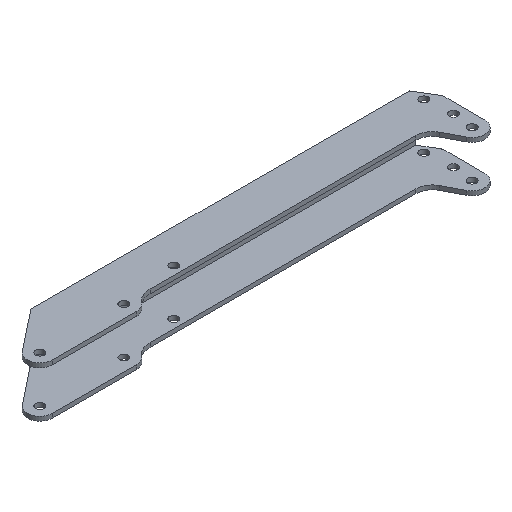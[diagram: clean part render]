
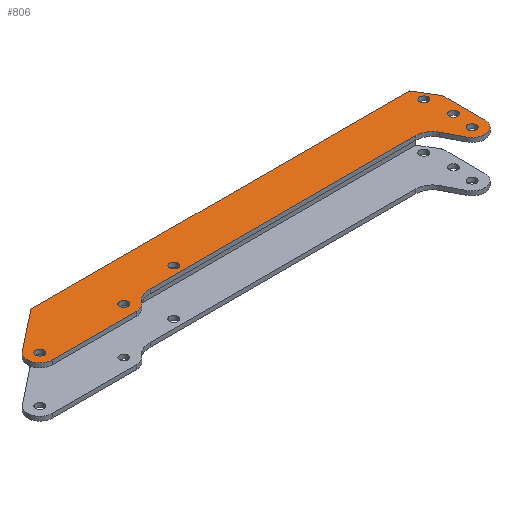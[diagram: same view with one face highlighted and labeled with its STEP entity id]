
A CAD part, isometric view. The second image highlights one B-rep face of the part: STEP entity #806.
In plain terms, the highlighted planar face has unit normal (0, 0, 1).
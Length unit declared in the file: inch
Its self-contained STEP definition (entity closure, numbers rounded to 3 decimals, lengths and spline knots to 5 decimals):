
#17=FACE_BOUND('',#177,.T.);
#18=FACE_BOUND('',#178,.T.);
#19=FACE_BOUND('',#179,.T.);
#20=FACE_BOUND('',#180,.T.);
#21=FACE_BOUND('',#181,.T.);
#22=FACE_BOUND('',#182,.T.);
#42=CIRCLE('',#848,3.);
#44=CIRCLE('',#853,3.);
#45=CIRCLE('',#856,1.);
#47=CIRCLE('',#859,1.);
#49=CIRCLE('',#862,1.);
#64=CIRCLE('',#891,3.);
#65=CIRCLE('',#893,1.);
#66=CIRCLE('',#894,5.);
#67=CIRCLE('',#895,4.);
#68=CIRCLE('',#896,1.);
#69=CIRCLE('',#897,1.);
#70=CIRCLE('',#898,1.);
#136=FACE_OUTER_BOUND('',#176,.T.);
#176=EDGE_LOOP('',(#639,#640,#641,#642,#643,#644,#645,#646,#647,#648,#649,
#650,#651));
#177=EDGE_LOOP('',(#652));
#178=EDGE_LOOP('',(#653));
#179=EDGE_LOOP('',(#654));
#180=EDGE_LOOP('',(#655));
#181=EDGE_LOOP('',(#656));
#182=EDGE_LOOP('',(#657));
#220=LINE('',#1189,#286);
#224=LINE('',#1203,#290);
#226=LINE('',#1208,#292);
#233=LINE('',#1225,#299);
#259=LINE('',#1306,#325);
#265=LINE('',#1317,#331);
#269=LINE('',#1326,#335);
#286=VECTOR('',#941,20.);
#290=VECTOR('',#953,63.20516);
#292=VECTOR('',#957,4.7889);
#299=VECTOR('',#972,9.72302);
#325=VECTOR('',#1044,5.55397);
#331=VECTOR('',#1052,90.);
#335=VECTOR('',#1058,12.77568);
#349=VERTEX_POINT('',#1182);
#352=VERTEX_POINT('',#1187);
#354=VERTEX_POINT('',#1193);
#357=VERTEX_POINT('',#1200);
#358=VERTEX_POINT('',#1202);
#359=VERTEX_POINT('',#1206);
#360=VERTEX_POINT('',#1207);
#364=VERTEX_POINT('',#1217);
#366=VERTEX_POINT('',#1223);
#367=VERTEX_POINT('',#1227);
#369=VERTEX_POINT('',#1233);
#371=VERTEX_POINT('',#1239);
#397=VERTEX_POINT('',#1303);
#398=VERTEX_POINT('',#1305);
#402=VERTEX_POINT('',#1315);
#406=VERTEX_POINT('',#1324);
#413=VERTEX_POINT('',#1354);
#414=VERTEX_POINT('',#1356);
#415=VERTEX_POINT('',#1358);
#428=EDGE_CURVE('',#349,#352,#220,.T.);
#431=EDGE_CURVE('',#352,#354,#42,.T.);
#434=EDGE_CURVE('',#358,#357,#224,.T.);
#436=EDGE_CURVE('',#359,#360,#226,.T.);
#442=EDGE_CURVE('',#359,#364,#44,.T.);
#445=EDGE_CURVE('',#366,#364,#233,.T.);
#446=EDGE_CURVE('',#367,#367,#45,.T.);
#449=EDGE_CURVE('',#369,#369,#47,.T.);
#452=EDGE_CURVE('',#371,#371,#49,.T.);
#483=EDGE_CURVE('',#397,#398,#259,.T.);
#489=EDGE_CURVE('',#402,#397,#265,.T.);
#493=EDGE_CURVE('',#402,#406,#269,.T.);
#506=EDGE_CURVE('',#406,#349,#64,.T.);
#507=EDGE_CURVE('',#366,#398,#65,.T.);
#508=EDGE_CURVE('',#354,#358,#66,.F.);
#509=EDGE_CURVE('',#357,#360,#67,.F.);
#510=EDGE_CURVE('',#413,#413,#68,.F.);
#511=EDGE_CURVE('',#414,#414,#69,.T.);
#512=EDGE_CURVE('',#415,#415,#70,.T.);
#639=ORIENTED_EDGE('',*,*,#445,.F.);
#640=ORIENTED_EDGE('',*,*,#507,.T.);
#641=ORIENTED_EDGE('',*,*,#483,.F.);
#642=ORIENTED_EDGE('',*,*,#489,.F.);
#643=ORIENTED_EDGE('',*,*,#493,.T.);
#644=ORIENTED_EDGE('',*,*,#506,.T.);
#645=ORIENTED_EDGE('',*,*,#428,.T.);
#646=ORIENTED_EDGE('',*,*,#431,.T.);
#647=ORIENTED_EDGE('',*,*,#508,.T.);
#648=ORIENTED_EDGE('',*,*,#434,.T.);
#649=ORIENTED_EDGE('',*,*,#509,.T.);
#650=ORIENTED_EDGE('',*,*,#436,.F.);
#651=ORIENTED_EDGE('',*,*,#442,.T.);
#652=ORIENTED_EDGE('',*,*,#510,.T.);
#653=ORIENTED_EDGE('',*,*,#511,.F.);
#654=ORIENTED_EDGE('',*,*,#512,.F.);
#655=ORIENTED_EDGE('',*,*,#452,.F.);
#656=ORIENTED_EDGE('',*,*,#449,.F.);
#657=ORIENTED_EDGE('',*,*,#446,.F.);
#778=PLANE('',#892);
#806=ADVANCED_FACE('',(#136,#17,#18,#19,#20,#21,#22),#778,.T.);
#848=AXIS2_PLACEMENT_3D('',#1195,#947,#948);
#853=AXIS2_PLACEMENT_3D('',#1219,#966,#967);
#856=AXIS2_PLACEMENT_3D('',#1228,#975,#976);
#859=AXIS2_PLACEMENT_3D('',#1234,#982,#983);
#862=AXIS2_PLACEMENT_3D('',#1240,#989,#990);
#891=AXIS2_PLACEMENT_3D('',#1349,#1086,#1087);
#892=AXIS2_PLACEMENT_3D('',#1350,#1088,#1089);
#893=AXIS2_PLACEMENT_3D('',#1351,#1090,#1091);
#894=AXIS2_PLACEMENT_3D('',#1352,#1092,#1093);
#895=AXIS2_PLACEMENT_3D('',#1353,#1094,#1095);
#896=AXIS2_PLACEMENT_3D('',#1355,#1096,#1097);
#897=AXIS2_PLACEMENT_3D('',#1357,#1098,#1099);
#898=AXIS2_PLACEMENT_3D('',#1359,#1100,#1101);
#941=DIRECTION('',(1.,0.,0.));
#947=DIRECTION('center_axis',(0.,0.,1.));
#948=DIRECTION('ref_axis',(1.,0.,0.));
#953=DIRECTION('',(1.,0.,0.));
#957=DIRECTION('',(-0.463,0.886,0.));
#966=DIRECTION('center_axis',(0.,0.,1.));
#967=DIRECTION('ref_axis',(1.,0.,0.));
#972=DIRECTION('',(0.,-1.,0.));
#975=DIRECTION('center_axis',(0.,0.,1.));
#976=DIRECTION('ref_axis',(1.,0.,0.));
#982=DIRECTION('center_axis',(0.,0.,1.));
#983=DIRECTION('ref_axis',(1.,0.,0.));
#989=DIRECTION('center_axis',(0.,0.,1.));
#990=DIRECTION('ref_axis',(1.,0.,0.));
#1044=DIRECTION('',(0.514,-0.857,0.));
#1052=DIRECTION('',(1.,0.,0.));
#1058=DIRECTION('',(-0.785,-0.619,0.));
#1086=DIRECTION('center_axis',(0.,0.,1.));
#1087=DIRECTION('ref_axis',(1.,0.,0.));
#1088=DIRECTION('center_axis',(0.,0.,1.));
#1089=DIRECTION('ref_axis',(1.,0.,0.));
#1090=DIRECTION('center_axis',(0.,0.,1.));
#1091=DIRECTION('ref_axis',(1.,0.,0.));
#1092=DIRECTION('center_axis',(0.,0.,1.));
#1093=DIRECTION('ref_axis',(1.,0.,0.));
#1094=DIRECTION('center_axis',(0.,0.,1.));
#1095=DIRECTION('ref_axis',(1.,0.,0.));
#1096=DIRECTION('center_axis',(0.,0.,1.));
#1097=DIRECTION('ref_axis',(1.,0.,0.));
#1098=DIRECTION('center_axis',(0.,0.,1.));
#1099=DIRECTION('ref_axis',(1.,0.,0.));
#1100=DIRECTION('center_axis',(0.,0.,1.));
#1101=DIRECTION('ref_axis',(1.,0.,0.));
#1182=CARTESIAN_POINT('',(-98.4252,-3.,6.));
#1187=CARTESIAN_POINT('',(-78.4252,-3.,6.));
#1189=CARTESIAN_POINT('',(-98.4252,-3.,6.));
#1193=CARTESIAN_POINT('',(-76.08332,-1.875,6.));
#1195=CARTESIAN_POINT('Origin',(-78.4252,0.,6.));
#1200=CARTESIAN_POINT('',(-8.97504,0.,6.));
#1202=CARTESIAN_POINT('',(-72.1802,0.,6.));
#1203=CARTESIAN_POINT('',(-72.1802,0.,6.));
#1206=CARTESIAN_POINT('',(-3.2113,-6.39016,6.));
#1207=CARTESIAN_POINT('',(-5.43041,-2.14645,6.));
#1208=CARTESIAN_POINT('',(-3.2113,-6.39016,6.));
#1217=CARTESIAN_POINT('',(2.44717,-5.,6.));
#1219=CARTESIAN_POINT('Origin',(-0.55283,-5.,6.));
#1223=CARTESIAN_POINT('',(2.44717,4.72302,6.));
#1225=CARTESIAN_POINT('',(2.44717,4.72302,6.));
#1227=CARTESIAN_POINT('',(-77.4252,0.,6.));
#1228=CARTESIAN_POINT('Origin',(-78.4252,0.,6.));
#1233=CARTESIAN_POINT('',(0.44717,-5.,6.));
#1234=CARTESIAN_POINT('Origin',(-0.55283,-5.,6.));
#1239=CARTESIAN_POINT('',(-97.4252,0.,6.));
#1240=CARTESIAN_POINT('Origin',(-98.4252,0.,6.));
#1303=CARTESIAN_POINT('',(-0.55283,10.,6.));
#1305=CARTESIAN_POINT('',(2.30466,5.23751,6.));
#1306=CARTESIAN_POINT('',(-0.55283,10.,6.));
#1315=CARTESIAN_POINT('',(-90.55283,10.,6.));
#1317=CARTESIAN_POINT('',(-90.55283,10.,6.));
#1324=CARTESIAN_POINT('',(-100.58173,2.08551,6.));
#1326=CARTESIAN_POINT('',(-90.55283,10.,6.));
#1349=CARTESIAN_POINT('Origin',(-98.4252,0.,6.));
#1350=CARTESIAN_POINT('Origin',(-98.4252,0.,6.));
#1351=CARTESIAN_POINT('Origin',(1.44717,4.72302,6.));
#1352=CARTESIAN_POINT('Origin',(-72.1802,-5.,6.));
#1353=CARTESIAN_POINT('Origin',(-8.97504,-4.,6.));
#1354=CARTESIAN_POINT('',(1.,0.,6.));
#1355=CARTESIAN_POINT('Origin',(0.,0.,6.));
#1356=CARTESIAN_POINT('',(-1.55283,6.5,6.));
#1357=CARTESIAN_POINT('Origin',(-0.55283,6.5,6.));
#1358=CARTESIAN_POINT('',(-65.55283,2.,6.));
#1359=CARTESIAN_POINT('Origin',(-64.55283,2.,6.));
